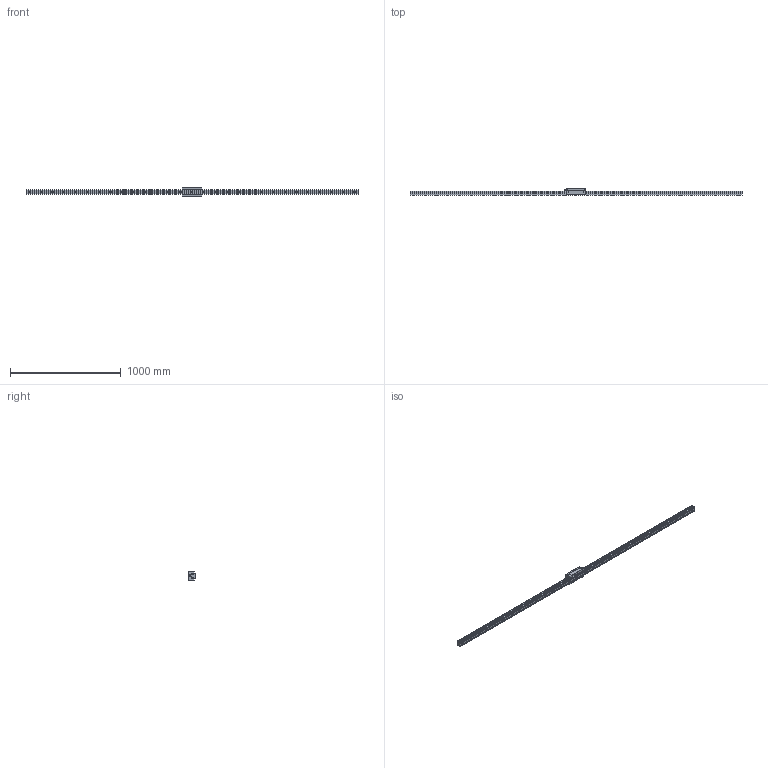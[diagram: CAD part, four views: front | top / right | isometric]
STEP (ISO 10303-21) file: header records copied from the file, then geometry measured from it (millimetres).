
FILE_DESCRIPTION(/* description */ ('STEP AP214'),/* implementation_level */ '2;1');
FILE_NAME(/* name */ 'HDR45LV1SS-3000L_G30_0_B-PT18_1411-35_0_0_01',/* time_stamp */ '2023-06-30T13:04:57+02:00',/* author */ ('License CC BY-ND 4.0'),/* organization */ ('CADENAS'),/* preprocessor_version */ 'ST-DEVELOPER v19.3',/* originating_system */ 'PARTsolutions',/* authorisation */ ' ');
FILE_SCHEMA (('AUTOMOTIVE_DESIGN {1 0 10303 214 3 1 1}'));
Length unit declared in the file: millimetre
Products named in the file (4): HDR45LV1SS-3000L_G30_0_B-PT18_1411-35_0_0_01; hsr_ftht_B-PT1/8_grease_nipple_joint; HDR45LVSSB-PT1/81 Slider; HDR45LV1300030 Rail
Assembly tree (3 placements, depth 2):
  HDR45LV1SS-3000L_G30_0_B-PT18_1411-35_0_0_01
    hsr_ftht_B-PT1/8_grease_nipple_joint
    HDR45LVSSB-PT1/81 Slider
    HDR45LV1300030 Rail
Bounding box: 3000 x 60 x 86 mm (x, y, z)
Volume: 4697754.6 mm3; surface area: 648303.4 mm2
Topology: 3 solids, 3 shells, 304 faces, 742 edges, 483 vertices
Faces by surface type: plane 160, cylinder 115, cone 24, torus 3, sphere 2
Full cylindrical faces by diameter (mm): 5.2 x4, 8.376 x6, 9.6 x1, 10.2 x2, 12.5 x2, 14 x29, 20 x29
Entity records: 8620 total; most frequent: CARTESIAN_POINT 1537, DIRECTION 1470, ORIENTED_EDGE 1250, EDGE_CURVE 625, AXIS2_PLACEMENT_3D 564, FACE_BOUND 511, EDGE_LOOP 503, VERTEX_POINT 476
